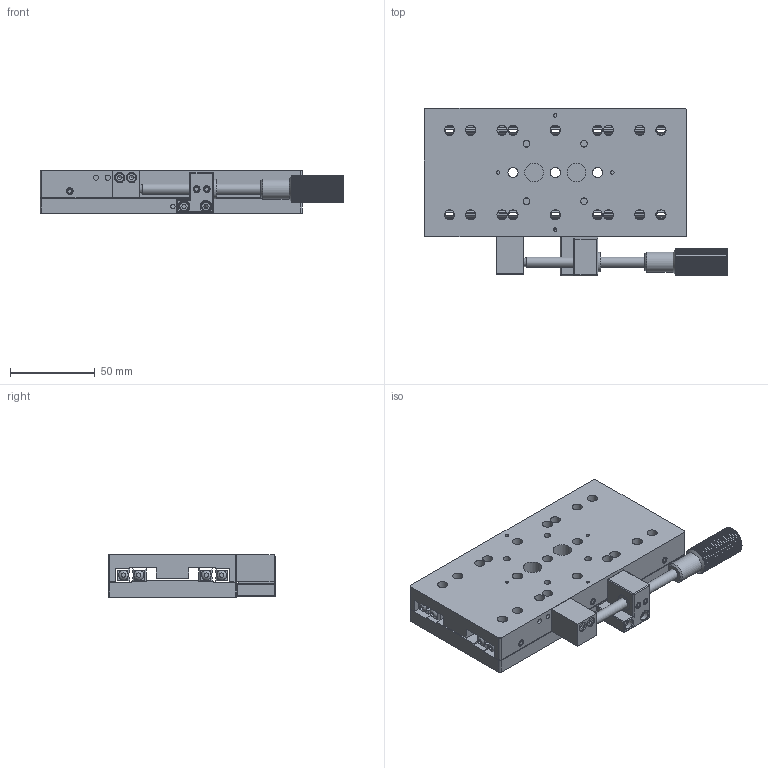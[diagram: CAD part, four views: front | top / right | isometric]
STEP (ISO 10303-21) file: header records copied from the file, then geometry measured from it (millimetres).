
FILE_DESCRIPTION (( 'STEP AP203' ), '1' );
FILE_NAME ('TSS155X-2A.step', '2017-01-10T09:21:07', ( '¦K¬P' ), ( '' ), 'SwSTEP 2.0', 'SolidWorks 2012', '' );
FILE_SCHEMA (( 'CONFIG_CONTROL_DESIGN' ));
Length unit declared in the file: millimetre
Products named in the file (1): TSS155X-2A
Bounding box: 179.5 x 99 x 25 mm (x, y, z)
Surface area: 86678.4 mm2 (no closed solid volume)
Topology: 0 solids, 36 shells, 538 faces, 1729 edges, 1157 vertices
Faces by surface type: plane 320, cylinder 180, cone 23, torus 9, sphere 6
Full cylindrical faces by diameter (mm): 1.7 x2, 2 x8, 2.5 x3, 3 x20, 3.3 x5, 4 x13, 5 x11, 6 x26, 6.6 x5, 8 x1, 10 x1, 11 x7, 11.5 x1, 12 x1
Entity records: 18909 total; most frequent: CARTESIAN_POINT 4503, DIRECTION 2811, ORIENTED_EDGE 2743, EDGE_CURVE 1540, VERTEX_POINT 1112, AXIS2_PLACEMENT_3D 1008, EDGE_LOOP 835, VECTOR 795
